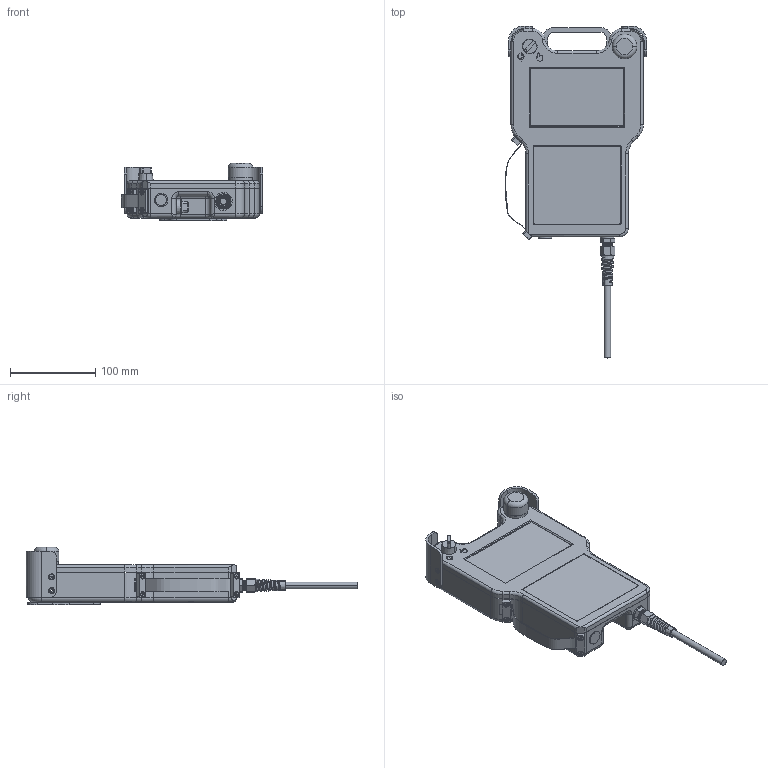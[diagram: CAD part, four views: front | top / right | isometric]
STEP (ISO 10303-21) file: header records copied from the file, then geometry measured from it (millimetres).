
FILE_DESCRIPTION (( 'STEP AP214' ), '1' );
FILE_NAME ('astorino_TP.STEP', '2024-05-02T08:36:15', ( '' ), ( '' ), 'SwSTEP 2.0', 'SolidWorks 2021', '' );
FILE_SCHEMA (( 'AUTOMOTIVE_DESIGN' ));
Length unit declared in the file: millimetre
Products named in the file (1): astorino_TP
Bounding box: 165.6 x 388.91 x 67.1 mm (x, y, z)
Surface area: 145810.5 mm2 (no closed solid volume)
Topology: 0 solids, 65 shells, 640 faces, 2027 edges, 1404 vertices
Faces by surface type: plane 271, cylinder 212, cone 99, torus 29, bspline 25, sphere 4
Entity records: 35833 total; most frequent: CARTESIAN_POINT 11136, DIRECTION 3760, ORIENTED_EDGE 3289, EDGE_CURVE 1999, VERTEX_POINT 1404, AXIS2_PLACEMENT_3D 1319, VECTOR 1122, LINE 1122
